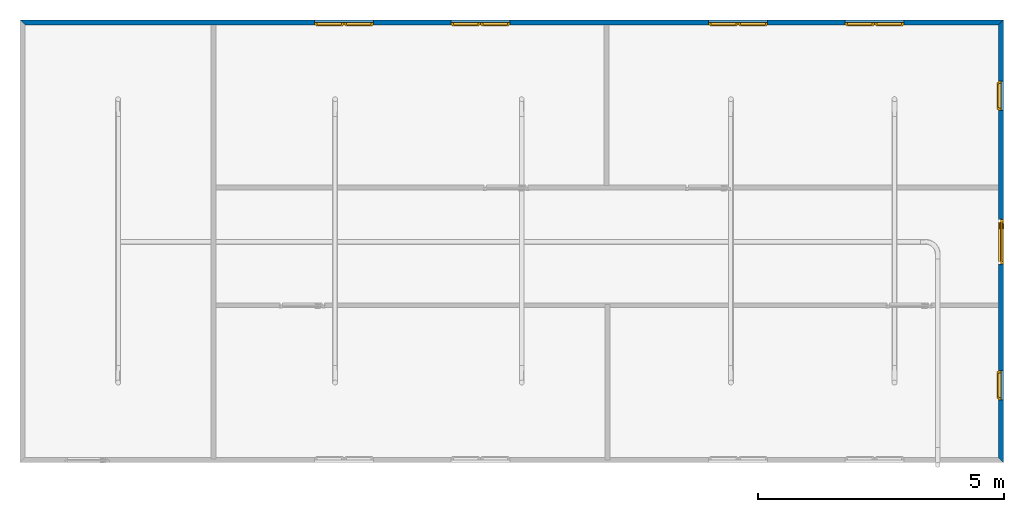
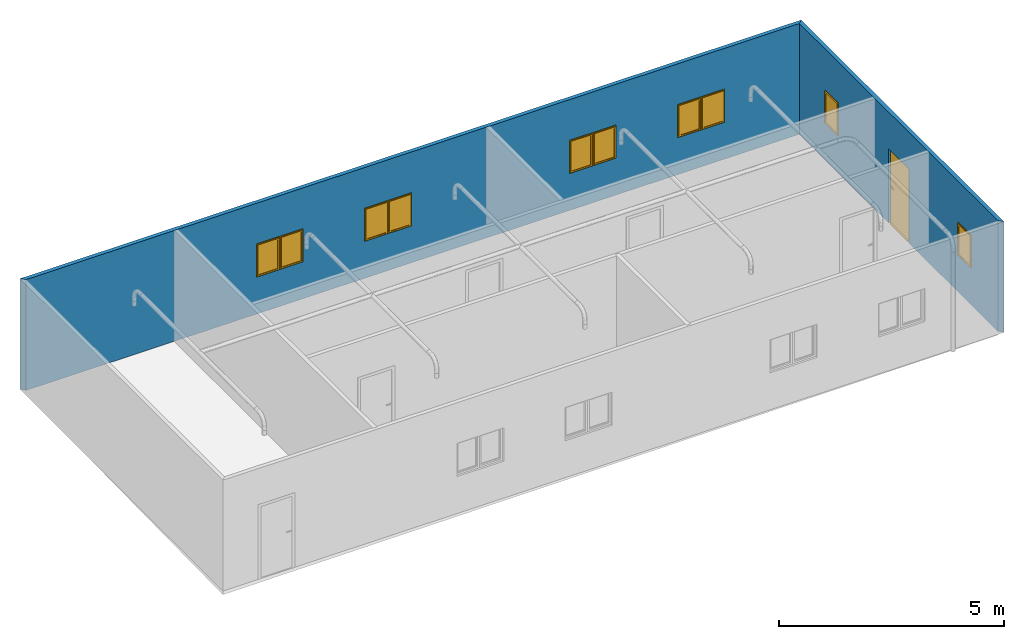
# One storey, part 2 of 4: 10 windows, 2 walls, 1 door, 11 openings.
"""IFC4 building model written with IfcOpenShell, lengths in metres."""

from ifc_helpers import new_model, entity, si_unit, converted_unit, frame, origin_with_axes, origin_2d_with_axis, place, context, subcontext, project, spatial, line, indexed_curve, outline, extrude, shape, source, transform, mapped, material, layer, layer_set, layer_usage, type_object, type_shapes, element, fill, save


model = new_model("IFC4")

# Units and contexts
model_context = context("Model", 3, precision=1e-05, world=origin_with_axes())
plan_context = context("Plan", 2, precision=1e-05, world=origin_2d_with_axis())
body_context_1 = subcontext(model_context, "Body", "Model", "MODEL_VIEW")
body_context_2 = subcontext(plan_context, "Body", "Plan", "PLAN_VIEW")
ifc_project = project(units=[si_unit("LENGTHUNIT", "METRE"), converted_unit("PLANEANGLEUNIT", "degree", entity("IfcReal", 0.0174532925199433), si_unit("PLANEANGLEUNIT", "RADIAN"), dimensions=[0, 0, 0, 0, 0, 0, 0]), si_unit("AREAUNIT", "SQUARE_METRE"), si_unit("VOLUMEUNIT", "CUBIC_METRE")], contexts=[model_context, plan_context])

# Site, building, storey
site_placement = place(None, origin_with_axes())
site = spatial("IfcSite", under=ifc_project, at=site_placement, Name="My Site")
building_placement = place(site_placement, origin_with_axes())
building = spatial("IfcBuilding", under=site, at=building_placement, Name="My Building")
storey_placement = place(building_placement, origin_with_axes())
storey = spatial("IfcBuildingStorey", under=building, at=storey_placement, Name="GF")

# Wall, openings, door, windows
ifc_material = material(Name="Unknown")
ifc_layer = layer(ifc_material, 0.1)
ifc_layer_set = layer_set([ifc_layer])
ifc_layer_usage_1 = layer_usage(ifc_layer_set, "AXIS2", "POSITIVE", 0.0)
wall_type = type_object("IfcWallType", Name="Unnamed", PredefinedType="SOLIDWALL", material=ifc_layer_set)
wall_1_placement = place(storey_placement, frame((20.0, 0.0, 0.0), z_axis=(0.0, 0.0, 1.0), x_axis=(7.54979012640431e-08, 0.999999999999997, 0.0)))
wall_1 = element("IfcWall", 1, at=wall_1_placement, inside=storey, type_object=wall_type, material=ifc_layer_usage_1, Name="Wall", context=body_context_1, shape_type="SweptSolid", body=[
    extrude(outline(indexed_curve([(0.0, 0.0), (0.0999999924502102, 0.1), (8.9000000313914, 0.1), (8.99999999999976, 0.0)], segments=[line(1, 2, 3, 4, 1)])), origin_with_axes(), (0.0, 0.0, 1.0), 3.0),
])
shared_shape_1 = source(origin_with_axes(), body_context_1, "Body", "SweptSolid", [
    extrude(outline(indexed_curve([(0.0, 0.0), (0.600000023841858, 0.0), (0.600000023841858, 0.899999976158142), (0.0, 0.899999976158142)], segments=[line(1, 2, 3, 4, 1)])), frame((0.0, -0.600000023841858, 0.0), z_axis=(0.0, -1.0, 0.0), x_axis=(1.0, 0.0, 0.0)), (0.0, 0.0, -1.0), 1.2),
])
opening_1_placement = place(wall_1_placement, frame((1.27152681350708, 9.59976063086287e-08, 1.0), z_axis=(0.0, 0.0, 1.0), x_axis=(0.999999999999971, -2.38418571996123e-07, 0.0)))
opening_1 = element("IfcOpeningElement", 2, at=opening_1_placement, cuts=wall_1, Name="Opening", PredefinedType="OPENING", context=body_context_1, shape_type="MappedRepresentation", body=[
    mapped(shared_shape_1, transform((0.0, 0.0, 0.0), x_axis=(1.0, 0.0, 0.0), y_axis=(0.0, 1.0, 0.0), z_axis=(0.0, 0.0, 1.0), scale=1.0)),
])
opening_2_placement = place(wall_1_placement, frame((7.15875291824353, -1.36687781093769e-06, 1.0), z_axis=(0.0, 0.0, 1.0), x_axis=(0.999999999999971, -2.38418571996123e-07, 0.0)))
opening_2 = element("IfcOpeningElement", 3, at=opening_2_placement, cuts=wall_1, Name="Opening", PredefinedType="OPENING", context=body_context_1, shape_type="MappedRepresentation", body=[
    mapped(shared_shape_1, transform((0.0, 0.0, 0.0), x_axis=(1.0, 0.0, 0.0), y_axis=(0.0, 1.0, 0.0), z_axis=(0.0, 0.0, 1.0), scale=1.0)),
])
shared_shape_2 = source(origin_with_axes(), body_context_1, "Body", "SweptSolid", [
    extrude(outline(indexed_curve([(0.0, 0.0), (0.899999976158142, 0.0), (0.899999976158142, 2.0), (0.0, 2.0)], segments=[line(1, 2, 3, 4, 1)])), frame((0.0, -0.600000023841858, 0.0), z_axis=(0.0, -1.0, 0.0), x_axis=(1.0, 0.0, 0.0)), (0.0, 0.0, -1.0), 1.2),
])
opening_3_placement = place(wall_1_placement, frame((4.04059743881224, 3.05056627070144e-07, 0.0), z_axis=(0.0, 0.0, 1.0), x_axis=(0.999999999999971, -2.38418571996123e-07, 0.0)))
opening_3 = element("IfcOpeningElement", 4, at=opening_3_placement, cuts=wall_1, Name="Opening", PredefinedType="OPENING", context=body_context_1, shape_type="MappedRepresentation", body=[
    mapped(shared_shape_2, transform((0.0, 0.0, 0.0), x_axis=(1.0, 0.0, 0.0), y_axis=(0.0, 1.0, 0.0), z_axis=(0.0, 0.0, 1.0), scale=1.0)),
])
door_type = type_object("IfcDoorType", Name="Unnamed", OperationType="SINGLE_SWING_LEFT", PredefinedType="DOOR")
shared_shape_3 = source(origin_with_axes(), body_context_1, "Body", "SweptSolid", [
    extrude(outline(indexed_curve([(0.0, 0.0), (0.0, 2.0), (0.899999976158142, 2.0), (0.899999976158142, 0.0), (0.874999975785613, 0.0), (0.874999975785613, 1.97499999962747), (0.025000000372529, 1.97499999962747), (0.025000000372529, 0.0)], segments=[line(1, 2, 3, 4, 5, 6, 7, 8, 1)])), frame((0.0, 0.025000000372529, 0.0), z_axis=(0.0, -1.0, 0.0), x_axis=(1.0, 0.0, 0.0)), (0.0, 0.0, -1.0), 0.025000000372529),
    extrude(outline(indexed_curve([(0.0, 0.0), (0.0, 2.0), (0.899999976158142, 2.0), (0.899999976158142, 0.0), (0.849999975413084, 0.0), (0.849999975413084, 1.94999999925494), (0.0500000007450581, 1.94999999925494), (0.0500000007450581, 0.0)], segments=[line(1, 2, 3, 4, 5, 6, 7, 8, 1)])), frame((0.0, 0.0, 0.0), z_axis=(0.0, -1.0, 0.0), x_axis=(1.0, 0.0, 0.0)), (0.0, 0.0, -1.0), 0.025000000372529),
    extrude(outline(indexed_curve([(0.0, 0.0), (0.849999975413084, 0.0), (0.849999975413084, 0.0350000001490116), (0.0, 0.0350000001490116)], segments=[line(1, 2, 3, 4, 1)])), frame((0.025000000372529, 0.025000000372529, 0.025000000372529), z_axis=(0.0, 0.0, 1.0), x_axis=(1.0, 0.0, 0.0)), (0.0, 0.0, 1.0), 1.94999999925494),
    extrude(outline(indexed_curve([(0.0, 0.0), (0.0, -0.04), (-0.12, -0.04), (-0.12, -0.02), (-0.02, -0.02), (-0.02, 0.0)], segments=[line(1, 2, 3, 4, 5, 6, 1)])), frame((0.824999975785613, 0.025000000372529, 1.01500000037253), z_axis=(0.0, 0.0, 1.0), x_axis=(1.0, 0.0, 0.0)), (0.0, 0.0, 1.0), 0.02),
    extrude(outline(indexed_curve([(0.0, 0.0), (0.0, 0.04), (-0.12, 0.04), (-0.12, 0.02), (-0.02, 0.02), (-0.02, 0.0)], segments=[line(1, 2, 3, 4, 5, 6, 1)])), frame((0.824999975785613, 0.0600000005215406, 1.01500000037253), z_axis=(0.0, 0.0, 1.0), x_axis=(1.0, 0.0, 0.0)), (0.0, 0.0, 1.0), 0.02),
    extrude(outline(indexed_curve([(0.0, 0.0), (0.799999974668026, 0.0), (0.799999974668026, 0.100000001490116), (0.0, 0.100000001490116)], segments=[line(1, 2, 3, 4, 1)])), frame((0.0500000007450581, 0.0, 0.0), z_axis=(0.0, 0.0, 1.0), x_axis=(1.0, 0.0, 0.0)), (0.0, 0.0, 1.0), 0.025000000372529),
    extrude(outline(indexed_curve([(0.0, 0.0), (0.0, 2.02500000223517), (0.94999998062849, 2.02500000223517), (0.94999998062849, 0.0), (0.874999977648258, 0.0), (0.874999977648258, 1.94999999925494), (0.0750000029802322, 1.94999999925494), (0.0750000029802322, 0.0)], segments=[line(1, 2, 3, 4, 5, 6, 7, 8, 1)])), frame((-0.0250000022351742, -0.00499999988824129, 0.0), z_axis=(0.0, -1.0, 0.0), x_axis=(1.0, 0.0, 0.0)), (0.0, 0.0, -1.0), 0.00499999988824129),
    extrude(outline(indexed_curve([(0.0, 0.0), (0.0, 2.02500000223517), (0.94999998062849, 2.02500000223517), (0.94999998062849, 0.0), (0.899999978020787, 0.0), (0.899999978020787, 1.97499999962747), (0.0500000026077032, 1.97499999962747), (0.0500000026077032, 0.0)], segments=[line(1, 2, 3, 4, 5, 6, 7, 8, 1)])), frame((-0.0250000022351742, 0.0500000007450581, 0.0), z_axis=(0.0, -1.0, 0.0), x_axis=(1.0, 0.0, 0.0)), (0.0, 0.0, -1.0), 0.00499999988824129),
])
shared_shape_4 = source(origin_with_axes(), body_context_2, "Body", "Curve2D", [
    entity("IfcIndexedPolyCurve", entity("IfcCartesianPointList2D", [[0.0, 0.0], [0.0, 0.0500000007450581], [0.025000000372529, 0.0500000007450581], [0.025000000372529, 0.025000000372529], [0.0500000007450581, 0.025000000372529], [0.0500000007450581, 0.0]]), [entity("IfcLineIndex", [1, 2, 3, 4, 5, 6, 1])]),
    entity("IfcIndexedPolyCurve", entity("IfcCartesianPointList2D", [[0.899999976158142, 0.0], [0.899999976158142, 0.0500000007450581], [0.874999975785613, 0.0500000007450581], [0.874999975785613, 0.025000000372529], [0.849999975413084, 0.025000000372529], [0.849999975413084, 0.0]]), [entity("IfcLineIndex", [1, 2, 3, 4, 5, 6, 1])]),
    entity("IfcTrimmedCurve", entity("IfcEllipse", entity("IfcAxis2Placement2D", entity("IfcCartesianPoint", [0.0600000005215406, 0.0500000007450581]), entity("IfcDirection", [1.0, 0.0])), 0.814999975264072, 0.849999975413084), [entity("IfcCartesianPoint", [0.874999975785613, 0.0500000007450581])], [entity("IfcCartesianPoint", [0.0600000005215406, 0.899999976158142])], True, "CARTESIAN"),
    entity("IfcIndexedPolyCurve", entity("IfcCartesianPointList2D", [[0.025000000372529, 0.0500000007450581], [0.0600000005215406, 0.0500000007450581], [0.0600000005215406, 0.899999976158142], [0.025000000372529, 0.899999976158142]]), [entity("IfcLineIndex", [1, 2, 3, 4, 1])]),
])
type_shapes(door_type, [shared_shape_3, shared_shape_4])
door_placement = place(opening_3_placement, frame((-8.88178419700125e-16, 3.5527136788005e-15, 0.0), z_axis=(0.0, 0.0, 1.0), x_axis=(1.0, 0.0, 0.0)))
door = element("IfcDoor", 5, at=door_placement, inside=storey, type_object=door_type, Name="Door", OverallHeight=2.0, OverallWidth=0.899999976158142, shapes=[
    shape(body_context_1, "Body", "MappedRepresentation", [mapped(shared_shape_3, transform((0.0, 0.0, 0.0), x_axis=(1.0, 0.0, 0.0), y_axis=(0.0, 1.0, 0.0), z_axis=(0.0, 0.0, 1.0), scale=1.0))]),
    shape(body_context_2, "Body", "MappedRepresentation", [mapped(shared_shape_4, transform((0.0, 0.0, 0.0), x_axis=(1.0, 0.0, 0.0), y_axis=(0.0, 1.0, 0.0), z_axis=(0.0, 0.0, 1.0), scale=1.0))]),
])
fill(opening_3, door)
window_type = type_object("IfcWindowType", Name="Unnamed", PartitioningType="SINGLE_PANEL", PredefinedType="WINDOW")
shared_shape_5 = source(origin_with_axes(), body_context_1, "Body", "SweptSolid", [
    extrude(outline(indexed_curve([(0.0, 0.0), (0.600000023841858, 0.0), (0.600000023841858, 0.899999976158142), (0.0, 0.899999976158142)], segments=[line(1, 2, 3, 4, 1)]), holes=[indexed_curve([(0.025000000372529, 0.025000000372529), (0.575000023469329, 0.025000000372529), (0.575000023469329, 0.874999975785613), (0.025000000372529, 0.874999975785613)], segments=[line(1, 2, 3, 4, 1)])]), frame((0.0, 0.0900000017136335, 0.0), z_axis=(0.0, -1.0, 0.0), x_axis=(1.0, 0.0, 0.0)), (0.0, 0.0, -1.0), 0.00999999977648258),
    extrude(outline(indexed_curve([(0.0, 0.0), (0.600000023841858, 0.0), (0.600000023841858, 0.899999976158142), (0.0, 0.899999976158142)], segments=[line(1, 2, 3, 4, 1)]), holes=[indexed_curve([(0.0500000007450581, 0.0500000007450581), (0.5500000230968, 0.0500000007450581), (0.5500000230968, 0.849999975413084), (0.0500000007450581, 0.849999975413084)], segments=[line(1, 2, 3, 4, 1)])]), frame((0.0, 0.0500000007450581, 0.0), z_axis=(0.0, -1.0, 0.0), x_axis=(1.0, 0.0, 0.0)), (0.0, 0.0, -1.0), 0.0400000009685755),
    extrude(outline(indexed_curve([(0.0, 0.0), (0.5500000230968, 0.0), (0.5500000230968, 0.849999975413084), (0.0, 0.849999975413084)], segments=[line(1, 2, 3, 4, 1)]), holes=[indexed_curve([(0.0350000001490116, 0.0350000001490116), (0.515000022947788, 0.0350000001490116), (0.515000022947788, 0.814999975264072), (0.0350000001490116, 0.814999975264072)], segments=[line(1, 2, 3, 4, 1)])]), frame((0.025000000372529, 0.0900000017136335, 0.025000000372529), z_axis=(0.0, -1.0, 0.0), x_axis=(1.0, 0.0, 0.0)), (0.0, 0.0, -1.0), 0.0350000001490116),
    extrude(outline(indexed_curve([(0.0350000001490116, 0.0350000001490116), (0.515000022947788, 0.0350000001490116), (0.515000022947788, 0.814999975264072), (0.0350000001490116, 0.814999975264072)], segments=[line(1, 2, 3, 4, 1)])), frame((0.025000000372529, 0.102500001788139, 0.025000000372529), z_axis=(0.0, -1.0, 0.0), x_axis=(1.0, 0.0, 0.0)), (0.0, 0.0, -1.0), 0.01),
])
shared_shape_6 = source(origin_with_axes(), body_context_2, "Body", "Curve2D", [
    entity("IfcIndexedPolyCurve", entity("IfcCartesianPointList2D", [[0.0500000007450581, 0.0500000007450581], [0.5500000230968, 0.0500000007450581]])),
    entity("IfcIndexedPolyCurve", entity("IfcCartesianPointList2D", [[0.0, 0.100000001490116], [0.025000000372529, 0.100000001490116], [0.025000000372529, 0.0900000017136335], [0.0500000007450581, 0.0900000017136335], [0.0500000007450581, 0.0500000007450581], [0.0, 0.0500000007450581]]), [entity("IfcLineIndex", [1, 2, 3, 4, 5, 6, 1])]),
    entity("IfcIndexedPolyCurve", entity("IfcCartesianPointList2D", [[0.600000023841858, 0.100000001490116], [0.575000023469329, 0.100000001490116], [0.575000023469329, 0.0900000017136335], [0.5500000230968, 0.0900000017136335], [0.5500000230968, 0.0500000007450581], [0.600000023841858, 0.0500000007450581]]), [entity("IfcLineIndex", [1, 2, 3, 4, 5, 6, 1])]),
    entity("IfcIndexedPolyCurve", entity("IfcCartesianPointList2D", [[0.025000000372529, 0.0900000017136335], [0.0600000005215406, 0.0900000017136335], [0.0600000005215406, 0.125000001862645], [0.025000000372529, 0.125000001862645]]), [entity("IfcLineIndex", [1, 2, 3, 4, 1])]),
    entity("IfcIndexedPolyCurve", entity("IfcCartesianPointList2D", [[0.575000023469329, 0.0900000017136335], [0.540000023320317, 0.0900000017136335], [0.540000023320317, 0.125000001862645], [0.575000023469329, 0.125000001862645]]), [entity("IfcLineIndex", [1, 2, 3, 4, 1])]),
    entity("IfcIndexedPolyCurve", entity("IfcCartesianPointList2D", [[0.0600000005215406, 0.0900000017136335], [0.540000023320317, 0.0900000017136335]])),
    entity("IfcIndexedPolyCurve", entity("IfcCartesianPointList2D", [[0.0600000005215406, 0.125000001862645], [0.540000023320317, 0.125000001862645]])),
    entity("IfcIndexedPolyCurve", entity("IfcCartesianPointList2D", [[0.0600000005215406, 0.107500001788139], [0.540000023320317, 0.107500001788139]])),
])
type_shapes(window_type, [shared_shape_5, shared_shape_6])
window_1_placement = place(opening_1_placement, frame((-2.22044604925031e-16, 3.5527136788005e-15, 0.0), z_axis=(0.0, 0.0, 1.0), x_axis=(1.0, 5.29395592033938e-23, 0.0)))
window_1 = element("IfcWindow", 6, at=window_1_placement, inside=storey, type_object=window_type, Name="Window", OverallHeight=0.899999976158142, OverallWidth=0.600000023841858, shapes=[
    shape(body_context_1, "Body", "MappedRepresentation", [mapped(shared_shape_5, transform((0.0, 0.0, 0.0), x_axis=(1.0, 0.0, 0.0), y_axis=(0.0, 1.0, 0.0), z_axis=(0.0, 0.0, 1.0), scale=1.0))]),
    shape(body_context_2, "Body", "MappedRepresentation", [mapped(shared_shape_6, transform((0.0, 0.0, 0.0), x_axis=(1.0, 0.0, 0.0), y_axis=(0.0, 1.0, 0.0), z_axis=(0.0, 0.0, 1.0), scale=1.0))]),
])
fill(opening_1, window_1)
window_2_placement = place(opening_2_placement, frame((-8.88178419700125e-16, 3.5527136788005e-15, 0.0), z_axis=(0.0, 0.0, 1.0), x_axis=(1.0, 5.29395592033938e-23, 0.0)))
window_2 = element("IfcWindow", 7, at=window_2_placement, inside=storey, type_object=window_type, Name="Window", OverallHeight=0.899999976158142, OverallWidth=0.600000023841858, shapes=[
    shape(body_context_1, "Body", "MappedRepresentation", [mapped(shared_shape_5, transform((0.0, 0.0, 0.0), x_axis=(1.0, 0.0, 0.0), y_axis=(0.0, 1.0, 0.0), z_axis=(0.0, 0.0, 1.0), scale=1.0))]),
    shape(body_context_2, "Body", "MappedRepresentation", [mapped(shared_shape_6, transform((0.0, 0.0, 0.0), x_axis=(1.0, 0.0, 0.0), y_axis=(0.0, 1.0, 0.0), z_axis=(0.0, 0.0, 1.0), scale=1.0))]),
])
fill(opening_2, window_2)

# Wall, openings, windows
ifc_layer_usage_2 = layer_usage(ifc_layer_set, "AXIS2", "POSITIVE", 0.0)
wall_2_placement = place(storey_placement, frame((20.0000006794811, 8.99999999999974, 0.0), z_axis=(0.0, 0.0, 1.0), x_axis=(-0.999999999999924, 3.89414367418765e-07, 0.0)))
wall_2 = element("IfcWall", 8, at=wall_2_placement, inside=storey, type_object=wall_type, material=ifc_layer_usage_2, Name="Wall", context=body_context_1, shape_type="SweptSolid", body=[
    extrude(outline(indexed_curve([(0.0, 0.0), (0.0999999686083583, 0.1), (19.900000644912, 0.1), (20.0000006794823, 0.0)], segments=[line(1, 2, 3, 4, 1)])), origin_with_axes(), (0.0, 0.0, 1.0), 3.0),
])
opening_4_placement = place(wall_2_placement, frame((4.791056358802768, -4.1642710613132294e-08, 1.0), z_axis=(0.0, 0.0, 1.0), x_axis=(1.0, 2.6469779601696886e-22, 0.0)))
opening_4 = element("IfcOpeningElement", 9, at=opening_4_placement, cuts=wall_2, Name="Opening", PredefinedType="OPENING", context=body_context_1, shape_type="MappedRepresentation", body=[
    mapped(shared_shape_1, transform((0.0, 0.0, 0.0), x_axis=(1.0, 0.0, 0.0), y_axis=(0.0, 1.0, 0.0), z_axis=(0.0, 0.0, 1.0), scale=1.0)),
])
opening_5_placement = place(wall_2_placement, frame((2.6186053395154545, 6.604796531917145e-08, 1.0), z_axis=(0.0, 0.0, 1.0), x_axis=(1.0, 2.6469779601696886e-22, 0.0)))
opening_5 = element("IfcOpeningElement", 10, at=opening_5_placement, cuts=wall_2, Name="Opening", PredefinedType="OPENING", context=body_context_1, shape_type="MappedRepresentation", body=[
    mapped(shared_shape_1, transform((0.0, 0.0, 0.0), x_axis=(1.0, 0.0, 0.0), y_axis=(0.0, 1.0, 0.0), z_axis=(0.0, 0.0, 1.0), scale=1.0)),
])
opening_6_placement = place(wall_2_placement, frame((2.018604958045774, -1.6760080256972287e-07, 1.0), z_axis=(0.0, 0.0, 1.0), x_axis=(1.0, 2.6469779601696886e-22, 0.0)))
opening_6 = element("IfcOpeningElement", 11, at=opening_6_placement, cuts=wall_2, Name="Opening", PredefinedType="OPENING", context=body_context_1, shape_type="MappedRepresentation", body=[
    mapped(shared_shape_1, transform((0.0, 0.0, 0.0), x_axis=(1.0, 0.0, 0.0), y_axis=(0.0, 1.0, 0.0), z_axis=(0.0, 0.0, 1.0), scale=1.0)),
])
opening_7_placement = place(wall_2_placement, frame((5.39105674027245, 1.9200605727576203e-07, 1.0), z_axis=(0.0, 0.0, 1.0), x_axis=(1.0, 2.6469779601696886e-22, 0.0)))
opening_7 = element("IfcOpeningElement", 12, at=opening_7_placement, cuts=wall_2, Name="Opening", PredefinedType="OPENING", context=body_context_1, shape_type="MappedRepresentation", body=[
    mapped(shared_shape_1, transform((0.0, 0.0, 0.0), x_axis=(1.0, 0.0, 0.0), y_axis=(0.0, 1.0, 0.0), z_axis=(0.0, 0.0, 1.0), scale=1.0)),
])
opening_8_placement = place(wall_2_placement, frame((12.807594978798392, 2.1908965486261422e-07, 1.0), z_axis=(0.0, 0.0, 1.0), x_axis=(1.0, 2.6469779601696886e-22, 0.0)))
opening_8 = element("IfcOpeningElement", 13, at=opening_8_placement, cuts=wall_2, Name="Opening", PredefinedType="OPENING", context=body_context_1, shape_type="MappedRepresentation", body=[
    mapped(shared_shape_1, transform((0.0, 0.0, 0.0), x_axis=(1.0, 0.0, 0.0), y_axis=(0.0, 1.0, 0.0), z_axis=(0.0, 0.0, 1.0), scale=1.0)),
])
opening_9_placement = place(wall_2_placement, frame((10.035143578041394, 9.313156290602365e-08, 1.0), z_axis=(0.0, 0.0, 1.0), x_axis=(1.0, 2.6469779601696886e-22, 0.0)))
opening_9 = element("IfcOpeningElement", 14, at=opening_9_placement, cuts=wall_2, Name="Opening", PredefinedType="OPENING", context=body_context_1, shape_type="MappedRepresentation", body=[
    mapped(shared_shape_1, transform((0.0, 0.0, 0.0), x_axis=(1.0, 0.0, 0.0), y_axis=(0.0, 1.0, 0.0), z_axis=(0.0, 0.0, 1.0), scale=1.0)),
])
opening_10_placement = place(wall_2_placement, frame((10.635143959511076, 3.267803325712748e-07, 1.0), z_axis=(0.0, 0.0, 1.0), x_axis=(1.0, 2.6469779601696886e-22, 0.0)))
opening_10 = element("IfcOpeningElement", 15, at=opening_10_placement, cuts=wall_2, Name="Opening", PredefinedType="OPENING", context=body_context_1, shape_type="MappedRepresentation", body=[
    mapped(shared_shape_1, transform((0.0, 0.0, 0.0), x_axis=(1.0, 0.0, 0.0), y_axis=(0.0, 1.0, 0.0), z_axis=(0.0, 0.0, 1.0), scale=1.0)),
])
opening_11_placement = place(wall_2_placement, frame((13.407597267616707, 4.5273916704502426e-07, 1.0), z_axis=(0.0, 0.0, 1.0), x_axis=(1.0, 2.6469779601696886e-22, 0.0)))
opening_11 = element("IfcOpeningElement", 16, at=opening_11_placement, cuts=wall_2, Name="Opening", PredefinedType="OPENING", context=body_context_1, shape_type="MappedRepresentation", body=[
    mapped(shared_shape_1, transform((0.0, 0.0, 0.0), x_axis=(1.0, 0.0, 0.0), y_axis=(0.0, 1.0, 0.0), z_axis=(0.0, 0.0, 1.0), scale=1.0)),
])
placement_1 = place(wall_2_placement, frame((1.5362631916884, -3.55431621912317e-07, 1.0), z_axis=(0.0, 0.0, 1.0), x_axis=(1.0, 0.0, 0.0)))
window_3_placement = place(placement_1, frame((0.48234176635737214, 1.8783081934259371e-07, 0.0), z_axis=(0.0, 0.0, 1.0), x_axis=(1.0, 2.6469779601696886e-22, 0.0)))
window_3 = element("IfcWindow", 17, at=window_3_placement, inside=storey, type_object=window_type, Name="Window.004", OverallHeight=0.899999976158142, OverallWidth=0.600000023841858, shapes=[
    shape(body_context_1, "Body", "MappedRepresentation", [mapped(shared_shape_5, transform((0.0, 0.0, 0.0), x_axis=(1.0, 0.0, 0.0), y_axis=(0.0, 1.0, 0.0), z_axis=(0.0, 0.0, 1.0), scale=1.0))]),
    shape(body_context_2, "Body", "MappedRepresentation", [mapped(shared_shape_6, transform((0.0, 0.0, 0.0), x_axis=(1.0, 0.0, 0.0), y_axis=(0.0, 1.0, 0.0), z_axis=(0.0, 0.0, 1.0), scale=1.0))]),
])
fill(opening_6, window_3)
placement_2 = place(wall_2_placement, frame((2.13626357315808, -1.21782852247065e-07, 1.0), z_axis=(0.0, 0.0, 1.0), x_axis=(1.0, 0.0, 0.0)))
window_4_placement = place(placement_2, frame((0.4823417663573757, 1.8783081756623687e-07, 0.0), z_axis=(0.0, 0.0, 1.0), x_axis=(1.0, 2.6469779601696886e-22, 0.0)))
window_4 = element("IfcWindow", 18, at=window_4_placement, inside=storey, type_object=window_type, Name="Window.005", OverallHeight=0.899999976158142, OverallWidth=0.600000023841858, shapes=[
    shape(body_context_1, "Body", "MappedRepresentation", [mapped(shared_shape_5, transform((0.0, 0.0, 0.0), x_axis=(1.0, 0.0, 0.0), y_axis=(0.0, 1.0, 0.0), z_axis=(0.0, 0.0, 1.0), scale=1.0))]),
    shape(body_context_2, "Body", "MappedRepresentation", [mapped(shared_shape_6, transform((0.0, 0.0, 0.0), x_axis=(1.0, 0.0, 0.0), y_axis=(0.0, 1.0, 0.0), z_axis=(0.0, 0.0, 1.0), scale=1.0))]),
])
fill(opening_5, window_4)
placement_3 = place(wall_2_placement, frame((4.28861590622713, -2.37300247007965e-07, 1.0), z_axis=(0.0, 0.0, 1.0), x_axis=(1.0, 0.0, 0.0)))
window_5_placement = place(placement_3, frame((0.5024404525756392, 1.956575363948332e-07, 0.0), z_axis=(0.0, 0.0, 1.0), x_axis=(1.0, 2.6469779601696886e-22, 0.0)))
window_5 = element("IfcWindow", 19, at=window_5_placement, inside=storey, type_object=window_type, Name="Window", OverallHeight=0.899999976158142, OverallWidth=0.600000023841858, shapes=[
    shape(body_context_1, "Body", "MappedRepresentation", [mapped(shared_shape_5, transform((0.0, 0.0, 0.0), x_axis=(1.0, 0.0, 0.0), y_axis=(0.0, 1.0, 0.0), z_axis=(0.0, 0.0, 1.0), scale=1.0))]),
    shape(body_context_2, "Body", "MappedRepresentation", [mapped(shared_shape_6, transform((0.0, 0.0, 0.0), x_axis=(1.0, 0.0, 0.0), y_axis=(0.0, 1.0, 0.0), z_axis=(0.0, 0.0, 1.0), scale=1.0))]),
])
fill(opening_4, window_5)
placement_4 = place(wall_2_placement, frame((4.88861724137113, -3.65110608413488e-09, 1.0), z_axis=(0.0, 0.0, 1.0), x_axis=(1.0, 0.0, 0.0)))
window_6_placement = place(placement_4, frame((0.5024404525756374, 1.956575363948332e-07, 0.0), z_axis=(0.0, 0.0, 1.0), x_axis=(1.0, 2.6469779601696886e-22, 0.0)))
window_6 = element("IfcWindow", 20, at=window_6_placement, inside=storey, type_object=window_type, Name="Window", OverallHeight=0.899999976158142, OverallWidth=0.600000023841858, shapes=[
    shape(body_context_1, "Body", "MappedRepresentation", [mapped(shared_shape_5, transform((0.0, 0.0, 0.0), x_axis=(1.0, 0.0, 0.0), y_axis=(0.0, 1.0, 0.0), z_axis=(0.0, 0.0, 1.0), scale=1.0))]),
    shape(body_context_2, "Body", "MappedRepresentation", [mapped(shared_shape_6, transform((0.0, 0.0, 0.0), x_axis=(1.0, 0.0, 0.0), y_axis=(0.0, 1.0, 0.0), z_axis=(0.0, 0.0, 1.0), scale=1.0))]),
])
fill(opening_7, window_6)
window_7_placement = place(storey_placement, frame((7.192405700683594, 9.000001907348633, 1.0), z_axis=(0.0, 0.0, 1.0), x_axis=(-0.9999999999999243, 3.8941436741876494e-07, 0.0)))
window_7 = element("IfcWindow", 21, at=window_7_placement, inside=storey, type_object=window_type, Name="Window", OverallHeight=0.899999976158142, OverallWidth=0.600000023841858, shapes=[
    shape(body_context_1, "Body", "MappedRepresentation", [mapped(shared_shape_5, transform((0.0, 0.0, 0.0), x_axis=(1.0, 0.0, 0.0), y_axis=(0.0, 1.0, 0.0), z_axis=(0.0, 0.0, 1.0), scale=1.0))]),
    shape(body_context_2, "Body", "MappedRepresentation", [mapped(shared_shape_6, transform((0.0, 0.0, 0.0), x_axis=(1.0, 0.0, 0.0), y_axis=(0.0, 1.0, 0.0), z_axis=(0.0, 0.0, 1.0), scale=1.0))]),
])
fill(opening_8, window_7)
window_8_placement = place(storey_placement, frame((9.96485710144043, 9.000000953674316, 1.0), z_axis=(0.0, 0.0, 1.0), x_axis=(-0.9999999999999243, 3.8941436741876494e-07, 0.0)))
window_8 = element("IfcWindow", 22, at=window_8_placement, inside=storey, type_object=window_type, Name="Window", OverallHeight=0.899999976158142, OverallWidth=0.600000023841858, shapes=[
    shape(body_context_1, "Body", "MappedRepresentation", [mapped(shared_shape_5, transform((0.0, 0.0, 0.0), x_axis=(1.0, 0.0, 0.0), y_axis=(0.0, 1.0, 0.0), z_axis=(0.0, 0.0, 1.0), scale=1.0))]),
    shape(body_context_2, "Body", "MappedRepresentation", [mapped(shared_shape_6, transform((0.0, 0.0, 0.0), x_axis=(1.0, 0.0, 0.0), y_axis=(0.0, 1.0, 0.0), z_axis=(0.0, 0.0, 1.0), scale=1.0))]),
])
fill(opening_9, window_8)
window_9_placement = place(storey_placement, frame((9.364856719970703, 9.000000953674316, 1.0), z_axis=(0.0, 0.0, 1.0), x_axis=(-0.9999999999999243, 3.8941436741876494e-07, 0.0)))
window_9 = element("IfcWindow", 23, at=window_9_placement, inside=storey, type_object=window_type, Name="Window", OverallHeight=0.899999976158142, OverallWidth=0.600000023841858, shapes=[
    shape(body_context_1, "Body", "MappedRepresentation", [mapped(shared_shape_5, transform((0.0, 0.0, 0.0), x_axis=(1.0, 0.0, 0.0), y_axis=(0.0, 1.0, 0.0), z_axis=(0.0, 0.0, 1.0), scale=1.0))]),
    shape(body_context_2, "Body", "MappedRepresentation", [mapped(shared_shape_6, transform((0.0, 0.0, 0.0), x_axis=(1.0, 0.0, 0.0), y_axis=(0.0, 1.0, 0.0), z_axis=(0.0, 0.0, 1.0), scale=1.0))]),
])
fill(opening_10, window_9)
window_10_placement = place(storey_placement, frame((6.592404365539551, 9.000001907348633, 1.0), z_axis=(0.0, 0.0, 1.0), x_axis=(-0.9999999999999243, 3.8941436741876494e-07, 0.0)))
window_10 = element("IfcWindow", 24, at=window_10_placement, inside=storey, type_object=window_type, Name="Window", OverallHeight=0.899999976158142, OverallWidth=0.600000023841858, shapes=[
    shape(body_context_1, "Body", "MappedRepresentation", [mapped(shared_shape_5, transform((0.0, 0.0, 0.0), x_axis=(1.0, 0.0, 0.0), y_axis=(0.0, 1.0, 0.0), z_axis=(0.0, 0.0, 1.0), scale=1.0))]),
    shape(body_context_2, "Body", "MappedRepresentation", [mapped(shared_shape_6, transform((0.0, 0.0, 0.0), x_axis=(1.0, 0.0, 0.0), y_axis=(0.0, 1.0, 0.0), z_axis=(0.0, 0.0, 1.0), scale=1.0))]),
])
fill(opening_11, window_10)

save(model, "model.ifc")
